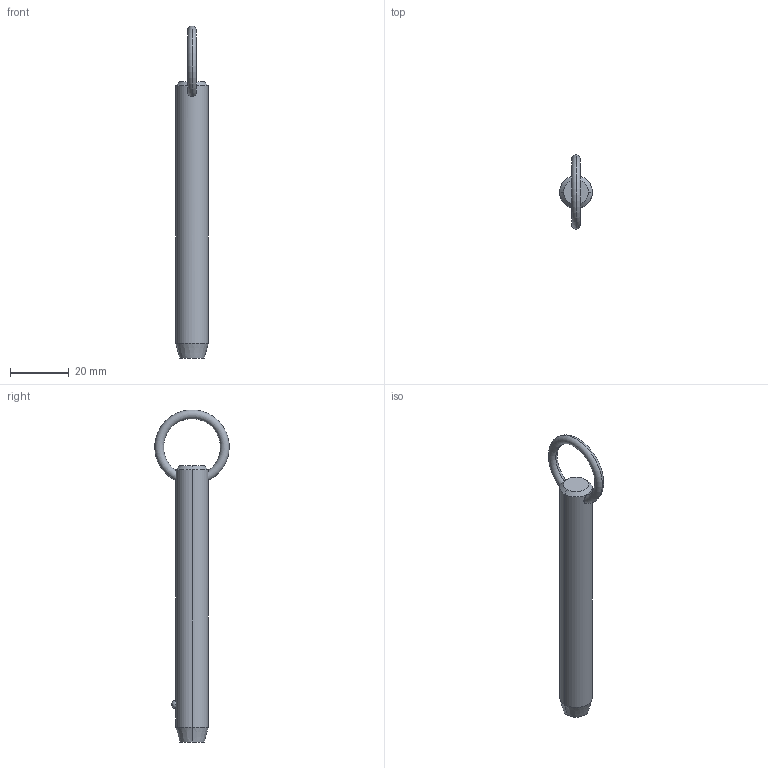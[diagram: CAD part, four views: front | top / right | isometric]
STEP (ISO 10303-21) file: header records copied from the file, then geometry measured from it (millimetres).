
FILE_DESCRIPTION (( 'STEP AP203' ), '1' );
FILE_NAME ('P1250.050-290.step', '2019-07-29T20:33:28', ( '' ), ( '' ), 'SwSTEP 2.0', 'SolidWorks 2017', '' );
FILE_SCHEMA (( 'CONFIG_CONTROL_DESIGN' ));
Length unit declared in the file: millimetre
Products named in the file (1): P1250.050-290
Bounding box: 11.1 x 25.32 x 113.25 mm (x, y, z)
Volume: 9408 mm3; surface area: 3941 mm2
Topology: 1 solids, 1 shells, 12 faces, 28 edges, 17 vertices
Faces by surface type: cone 4, torus 2, sphere 2, cylinder 2, plane 2
Entity records: 523 total; most frequent: CARTESIAN_POINT 190, DIRECTION 56, ORIENTED_EDGE 48, AXIS2_PLACEMENT_3D 25, EDGE_CURVE 24, VERTEX_POINT 15, EDGE_LOOP 15, FACE_OUTER_BOUND 12
